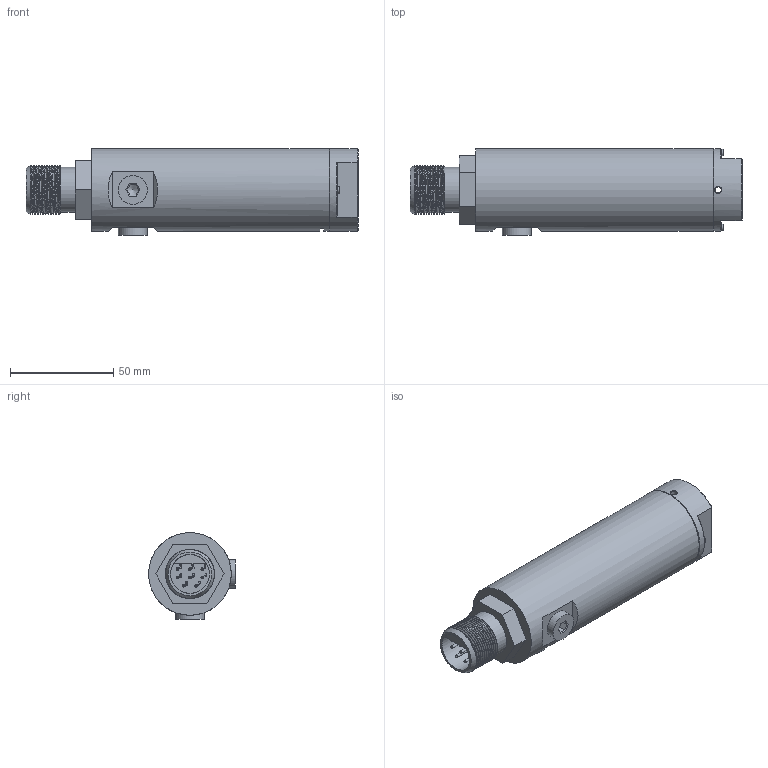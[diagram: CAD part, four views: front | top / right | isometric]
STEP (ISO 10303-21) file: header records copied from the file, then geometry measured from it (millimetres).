
FILE_DESCRIPTION(/* description */ ('Subsea Pressure Sensor RS232 1000Bar'),/* implementation_level */ '2;1');
FILE_NAME(/* name */ '121575.step',/* time_stamp */ '2025-05-07T10:26:57+02:00',/* author */ (''),/* organization */ (''),/* preprocessor_version */ 'ST-DEVELOPER v20.1',/* originating_system */ 'Autodesk Translation Framework v14.4.0.0',/* authorisation */ '');
FILE_SCHEMA (('AUTOMOTIVE_DESIGN { 1 0 10303 214 3 1 1 }'));
Length unit declared in the file: millimetre
Products named in the file (6): 121575; 116040; 118503; 120286; 120287; 120289
Assembly tree (7 placements, depth 2):
  121575
    116040
    118503  x2
    120286
    120287
    120289  x2
Bounding box: 160.75 x 42 x 42 mm (x, y, z)
Volume: 124386.7 mm3; surface area: 43437.4 mm2
Topology: 8 solids, 8 shells, 412 faces, 1033 edges, 669 vertices
Faces by surface type: plane 156, bspline 94, cylinder 86, cone 50, torus 26
Full cylindrical faces by diameter (mm): 1.3 x8, 3 x6, 3.1 x2, 5.2 x1, 8.3 x2, 8.566 x2, 9.7 x1, 9.73 x12, 10.376 x1, 12 x2, 13 x1, 14 x2, 14.351 x1, 15.763 x1, 18.868 x1, 19 x1, 21.812 x1, 22.301 x10, 23.711 x11, 26 x1, 26.2 x1, 27.4 x2, 30 x4, 31 x4, 40 x2
Entity records: 15885 total; most frequent: CARTESIAN_POINT 7307, ORIENTED_EDGE 1830, DIRECTION 1456, EDGE_CURVE 915, VERTEX_POINT 599, AXIS2_PLACEMENT_3D 516, LINE 424, VECTOR 424
